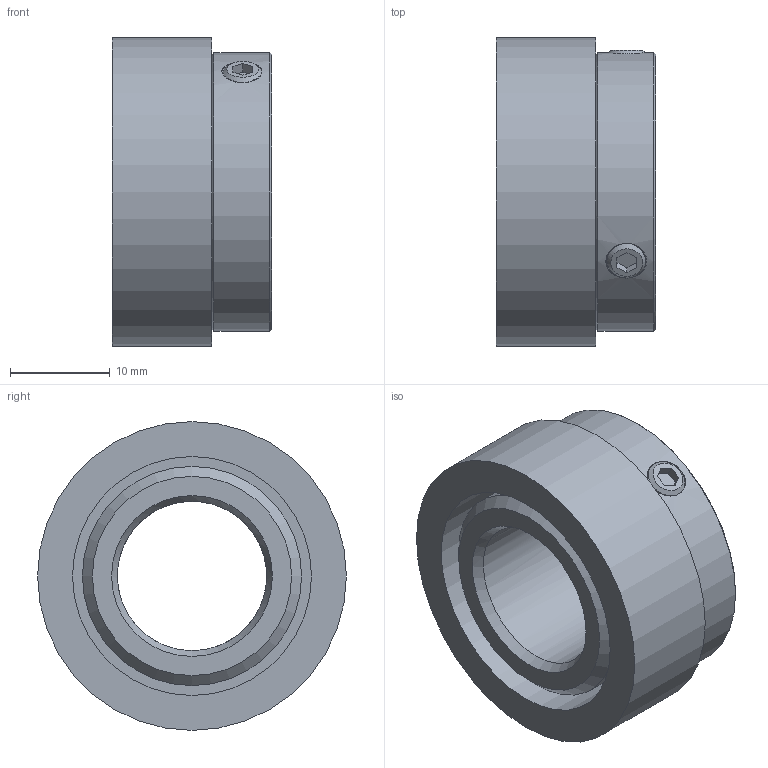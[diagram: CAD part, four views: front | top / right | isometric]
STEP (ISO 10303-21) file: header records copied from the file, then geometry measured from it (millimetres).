
FILE_DESCRIPTION (( 'STEP AP203' ), '1' );
FILE_NAME ('8.RI20.031.1500.111.STEP', '2013-07-30T11:36:22', ( 'Hodot' ), ( '' ), 'SwSTEP 2.0', 'SolidWorks 2012', '' );
FILE_SCHEMA (( 'CONFIG_CONTROL_DESIGN' ));
Length unit declared in the file: millimetre
Products named in the file (1): 8.RI20.031.1500.111
Bounding box: 16 x 31 x 31 mm (x, y, z)
Volume: 7448.6 mm3; surface area: 5356 mm2
Topology: 4 solids, 4 shells, 53 faces, 119 edges, 78 vertices
Faces by surface type: plane 30, cylinder 15, cone 8
Full cylindrical faces by diameter (mm): 2.5 x2, 4 x4, 15 x1, 22 x1, 24 x1, 28 x1, 31 x1
Entity records: 1605 total; most frequent: CARTESIAN_POINT 448, DIRECTION 224, ORIENTED_EDGE 184, EDGE_CURVE 92, AXIS2_PLACEMENT_3D 90, EDGE_LOOP 84, VERTEX_POINT 70, FACE_OUTER_BOUND 64
